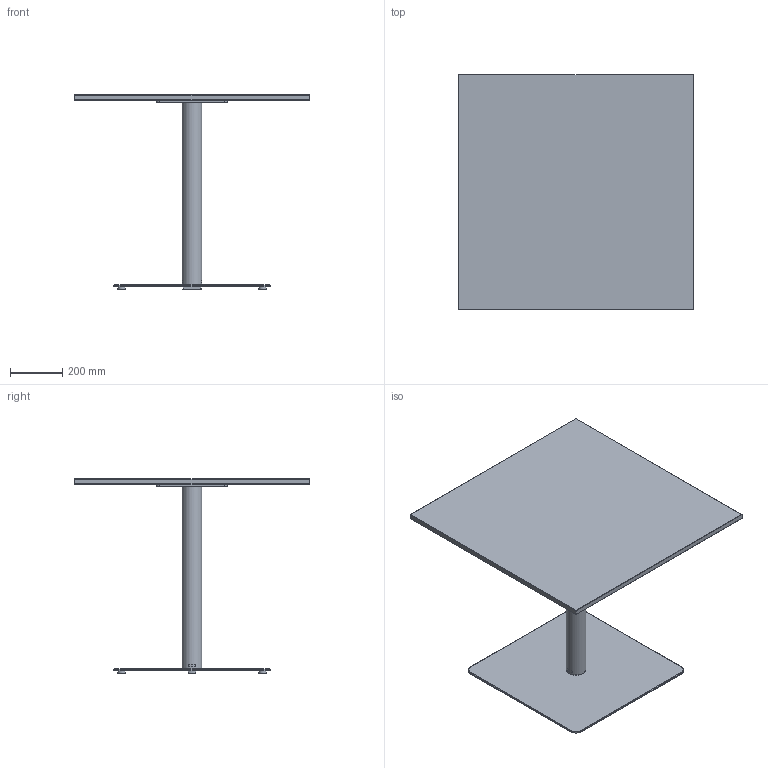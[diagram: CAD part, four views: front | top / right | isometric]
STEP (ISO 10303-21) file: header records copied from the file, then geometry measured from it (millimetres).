
FILE_DESCRIPTION( ('This file contains a STEP AP42 implementation' ,'as created by ZW3D STEP Interface translator.') ,'2;1' );
FILE_NAME( 'Henri - B_Carré - F4 - M1 - 900 x 900 x 750.stp' ,'24 912.172210', (''), ('ZWCAD Software Co.'), 'Version 1.0', 'ZW3D to STEP translator', '' );
FILE_SCHEMA(('AUTOMOTIVE_DESIGN { 1 0 10303 214 1 1 1 1 }'));
Length unit declared in the file: millimetre
Products named in the file (14): 0; PIED BISTROT PARAMETRIQUE_; COLONNE ACIER Ø76 V.02_; TUB-D076-02_; PLA-R76B-01_; CROIX ACIER 370 V.02_; CRX-X370-02_; SOCLE ACIER L 600x600 V.02_; SCL-R600-02_; PLA-R30A-01_; PLA-R30A-01; WUERTH 0276063020 Euro-screw 6.3x2 Verzinkt_; PLATEAU BISTROT PARAMETRIQUE_; insert_m6_13_
Assembly tree (22 placements, depth 3):
  0
  PIED BISTROT PARAMETRIQUE_
    COLONNE ACIER Ø76 V.02_
      TUB-D076-02_
      PLA-R76B-01_  x2
    CROIX ACIER 370 V.02_
      CRX-X370-02_
    SOCLE ACIER L 600x600 V.02_
      SCL-R600-02_
      PLA-R30A-01_
      PLA-R30A-01  x3
    WUERTH 0276063020 Euro-screw 6.3x2 Verzinkt_
    PLATEAU BISTROT PARAMETRIQUE_
      insert_m6_13_  x8
Bounding box: 900 x 900 x 744 mm (x, y, z)
Volume: 20003130.2 mm3; surface area: 2942054.3 mm2
Topology: 19 solids, 19 shells, 537 faces, 1310 edges, 814 vertices
Faces by surface type: plane 262, bspline 129, cylinder 98, cone 47, torus 1
Full cylindrical faces by diameter (mm): 4.88 x1, 6 x8, 6.3 x1, 8 x45, 12 x2, 14 x2, 30 x4, 72 x1, 76 x1
Entity records: 12222 total; most frequent: CARTESIAN_POINT 3436, ORIENTED_EDGE 1608, DIRECTION 1471, EDGE_CURVE 804, VECTOR 513, LINE 513, VERTEX_POINT 510, AXIS2_PLACEMENT_3D 479
